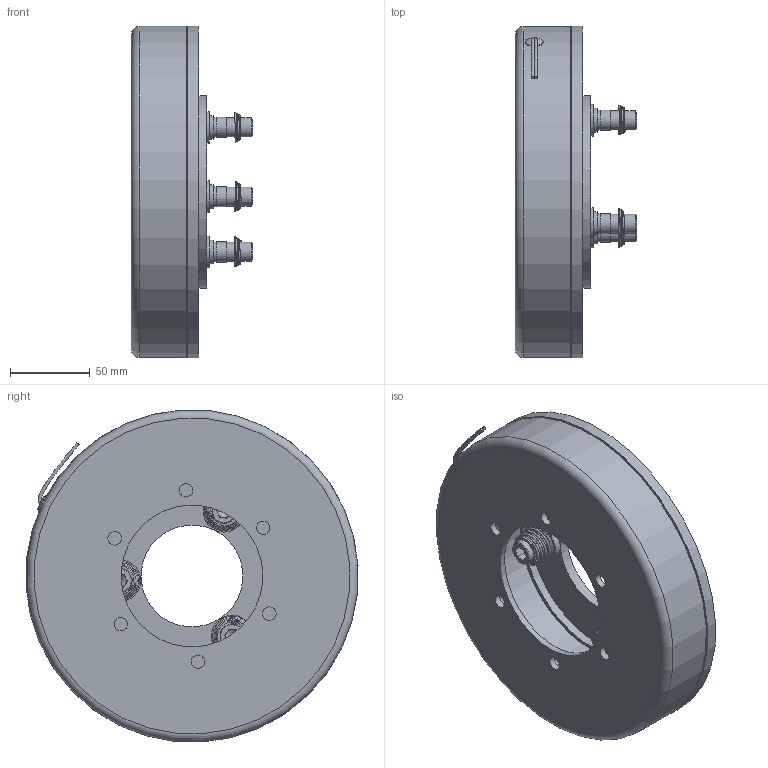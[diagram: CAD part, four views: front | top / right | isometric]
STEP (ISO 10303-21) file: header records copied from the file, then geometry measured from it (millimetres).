
FILE_DESCRIPTION(/* description */ (''),/* implementation_level */ '2;1');
FILE_NAME(/* name */ 'X:\INVENTOR\DISEGNI\08_Freni_Friz_Elettmag_Monodisco\08_04 EMF\08_04_210_01 EMF210\08_04_210_01 EMF210@STEP.stp',/* time_stamp */ '2023-02-24T15:20:19+01:00',/* author */ ('alessio'),/* organization */ (''),/* preprocessor_version */ 'ST-DEVELOPER v18.1',/* originating_system */ 'Autodesk Inventor 2021',/* authorisation */ '');
FILE_SCHEMA (('AUTOMOTIVE_DESIGN { 1 0 10303 214 3 1 1 }'));
Length unit declared in the file: millimetre
Products named in the file (1): 08_04_210_01 EMF210
Bounding box: 76.31 x 208.56 x 208.56 mm (x, y, z)
Volume: 1044119.1 mm3; surface area: 227955.5 mm2
Topology: 5 solids, 23 shells, 321 faces, 692 edges, 452 vertices
Faces by surface type: plane 157, cylinder 130, cone 18, bspline 9, torus 7
Full cylindrical faces by diameter (mm): 1.3 x6, 1.7 x6, 2 x6, 4 x1, 8.1 x3, 8.5 x6, 9 x1, 11 x1, 12 x3, 12.5 x3, 12.7 x3, 14.3 x3, 15 x9, 20 x3, 26 x3, 64 x1, 89 x1, 120 x1, 121 x1, 122 x1, 135 x1, 142 x1, 143 x2, 191 x2, 192 x1, 200 x1, 208.5 x1, 209 x1
Entity records: 13593 total; most frequent: CARTESIAN_POINT 5864, DIRECTION 1647, ORIENTED_EDGE 1384, EDGE_CURVE 692, AXIS2_PLACEMENT_3D 679, VERTEX_POINT 453, EDGE_LOOP 410, CIRCLE 366
